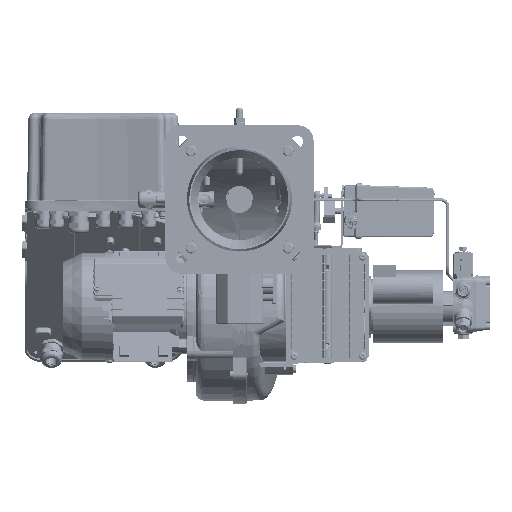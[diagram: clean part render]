
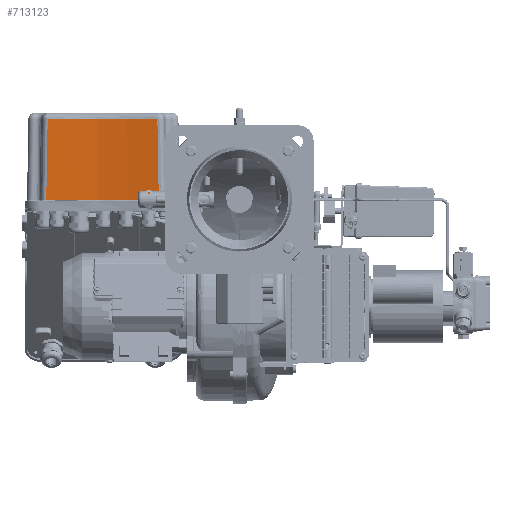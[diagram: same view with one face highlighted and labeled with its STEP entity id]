
A CAD part, top view. The second image highlights one B-rep face of the part: STEP entity #713123.
In plain terms, the highlighted conical face has half-angle 1 degrees and reference radius 626.335 mm.
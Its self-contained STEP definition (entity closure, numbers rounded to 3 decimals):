
#23170 = CARTESIAN_POINT ( 'NONE',  ( 748.992, -1448.733, 2040.502 ) ) ;
#27464 = CARTESIAN_POINT ( 'NONE',  ( 768.963, -1448.733, 1935.467 ) ) ;
#54261 = CARTESIAN_POINT ( 'NONE',  ( 748.559, -1553.372, 2077.921 ) ) ;
#79314 = B_SPLINE_CURVE_WITH_KNOTS ( 'NONE', 3,
 ( #54261, #247009, #242748, #178571, #319757, #825412 ),
 .UNSPECIFIED., .F., .F.,
 ( 4, 2, 4 ),
 ( 0., 0.5, 1. ),
 .UNSPECIFIED. ) ;
#93377 = VERTEX_POINT ( 'NONE', #243645 ) ;
#124985 = EDGE_CURVE ( 'NONE', #93377, #448304, #205586, .T. ) ;
#125679 = B_SPLINE_CURVE_WITH_KNOTS ( 'NONE', 3,
 ( #386308, #759060, #840320, #249188 ),
 .UNSPECIFIED., .F., .F.,
 ( 4, 4 ),
 ( 0., 1. ),
 .UNSPECIFIED. ) ;
#134795 = CARTESIAN_POINT ( 'NONE',  ( 760.095, -1448.733, 1970.027 ) ) ;
#147483 = CARTESIAN_POINT ( 'NONE',  ( 746.805, -1448.733, 2076.115 ) ) ;
#154831 = ORIENTED_EDGE ( 'NONE', *, *, #591486, .F. ) ;
#175242 = B_SPLINE_CURVE_WITH_KNOTS ( 'NONE', 3,
 ( #147483, #670086, #23170, #276032, #134795, #284463, #396165 ),
 .UNSPECIFIED., .F., .F.,
 ( 4, 1, 1, 1, 4 ),
 ( 0., 0.25, 0.5, 0.75, 1. ),
 .UNSPECIFIED. ) ;
#178571 = CARTESIAN_POINT ( 'NONE',  ( 759.538, -1553.372, 1981.028 ) ) ;
#205586 = B_SPLINE_CURVE_WITH_KNOTS ( 'NONE', 3,
 ( #370275, #631483, #378758, #558761 ),
 .UNSPECIFIED., .F., .F.,
 ( 4, 4 ),
 ( 0., 1. ),
 .UNSPECIFIED. ) ;
#242748 = CARTESIAN_POINT ( 'NONE',  ( 751.92, -1553.372, 2029.223 ) ) ;
#243645 = CARTESIAN_POINT ( 'NONE',  ( 746.805, -1448.733, 2076.115 ) ) ;
#247009 = CARTESIAN_POINT ( 'NONE',  ( 749.525, -1553.372, 2053.543 ) ) ;
#249188 = CARTESIAN_POINT ( 'NONE',  ( 768.963, -1448.733, 1935.467 ) ) ;
#276032 = CARTESIAN_POINT ( 'NONE',  ( 753.54, -1448.733, 2005.106 ) ) ;
#284463 = CARTESIAN_POINT ( 'NONE',  ( 765.79, -1448.733, 1946.925 ) ) ;
#299586 = FACE_OUTER_BOUND ( 'NONE', #761802, .T. ) ;
#319757 = CARTESIAN_POINT ( 'NONE',  ( 764.761, -1553.372, 1957.154 ) ) ;
#370275 = CARTESIAN_POINT ( 'NONE',  ( 746.805, -1448.733, 2076.115 ) ) ;
#378758 = CARTESIAN_POINT ( 'NONE',  ( 747.975, -1518.529, 2077.319 ) ) ;
#380839 = CARTESIAN_POINT ( 'NONE',  ( 1372.579, -1448.733, 2102.631 ) ) ;
#386308 = CARTESIAN_POINT ( 'NONE',  ( 771.362, -1553.372, 1933.668 ) ) ;
#396165 = CARTESIAN_POINT ( 'NONE',  ( 768.963, -1448.733, 1935.467 ) ) ;
#433815 = AXIS2_PLACEMENT_3D ( 'NONE', #380839, #637749, #822133 ) ;
#448304 = VERTEX_POINT ( 'NONE', #524976 ) ;
#504607 = EDGE_CURVE ( 'NONE', #448304, #543437, #79314, .T. ) ;
#524976 = CARTESIAN_POINT ( 'NONE',  ( 748.559, -1553.372, 2077.921 ) ) ;
#530080 = EDGE_CURVE ( 'NONE', #543437, #844749, #125679, .T. ) ;
#543437 = VERTEX_POINT ( 'NONE', #806722 ) ;
#558761 = CARTESIAN_POINT ( 'NONE',  ( 748.559, -1553.372, 2077.921 ) ) ;
#591486 = EDGE_CURVE ( 'NONE', #93377, #844749, #175242, .T. ) ;
#625156 = CONICAL_SURFACE ( 'NONE', #433815, 626.335, 0.017 ) ;
#631483 = CARTESIAN_POINT ( 'NONE',  ( 747.39, -1483.649, 2076.717 ) ) ;
#637749 = DIRECTION ( 'NONE',  ( 0., 1., 0. ) ) ;
#653837 = ORIENTED_EDGE ( 'NONE', *, *, #124985, .T. ) ;
#670086 = CARTESIAN_POINT ( 'NONE',  ( 747.309, -1448.733, 2064.236 ) ) ;
#713123 = ADVANCED_FACE ( 'NONE', ( #299586 ), #625156, .F. ) ;
#759060 = CARTESIAN_POINT ( 'NONE',  ( 770.562, -1518.561, 1934.266 ) ) ;
#761802 = EDGE_LOOP ( 'NONE', ( #796373, #798276, #154831, #653837 ) ) ;
#796373 = ORIENTED_EDGE ( 'NONE', *, *, #504607, .T. ) ;
#798276 = ORIENTED_EDGE ( 'NONE', *, *, #530080, .T. ) ;
#806722 = CARTESIAN_POINT ( 'NONE',  ( 771.362, -1553.372, 1933.668 ) ) ;
#822133 = DIRECTION ( 'NONE',  ( -1., 0., 0. ) ) ;
#825412 = CARTESIAN_POINT ( 'NONE',  ( 771.362, -1553.372, 1933.668 ) ) ;
#840320 = CARTESIAN_POINT ( 'NONE',  ( 769.763, -1483.681, 1934.866 ) ) ;
#844749 = VERTEX_POINT ( 'NONE', #27464 ) ;
